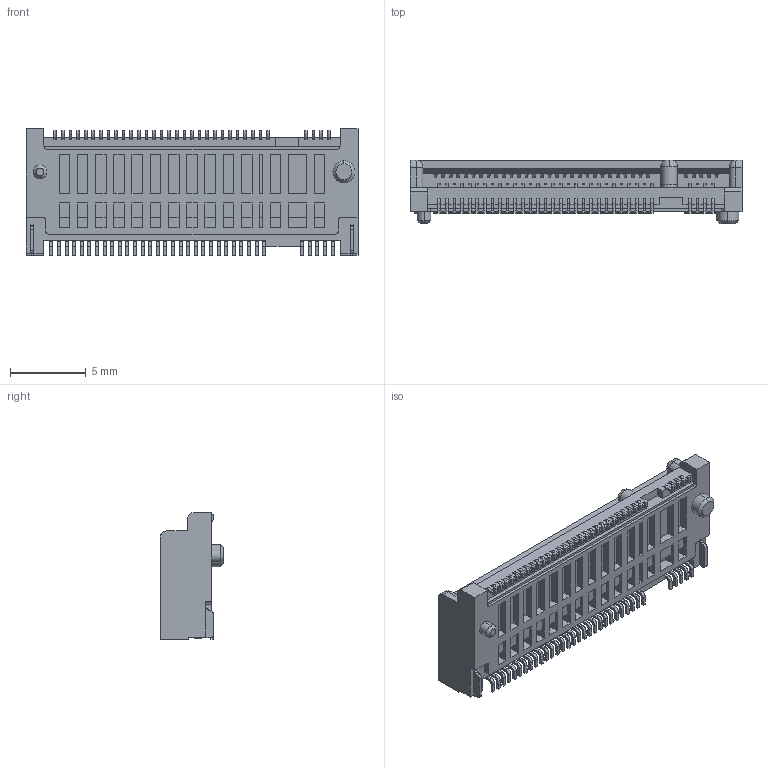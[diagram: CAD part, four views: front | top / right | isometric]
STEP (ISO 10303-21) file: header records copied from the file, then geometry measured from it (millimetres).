
FILE_DESCRIPTION (( 'STEP AP203' ), '1' );
FILE_NAME ('8402-C67G00M4T-G4-1120823.STEP', '2023-08-23T08:56:45', ( '' ), ( '' ), 'SwSTEP 2.0', 'SolidWorks 2019', '' );
FILE_SCHEMA (( 'CONFIG_CONTROL_DESIGN' ));
Length unit declared in the file: millimetre
Products named in the file (2): 8402-C67G00M4T-G4-1120823
Assembly tree (1 placements, depth 2):
  8402-C67G00M4T-G4-1120823
    8402-C67G00M4T-G4-1120823
Bounding box: 21.85 x 4.2 x 8.35 mm (x, y, z)
Volume: 389.6 mm3; surface area: 866.2 mm2
Topology: 2 solids, 2 shells, 2711 faces, 7704 edges, 4990 vertices
Faces by surface type: plane 1862, cylinder 705, bspline 140, cone 4
Entity records: 90034 total; most frequent: CARTESIAN_POINT 20313, ORIENTED_EDGE 15268, DIRECTION 13378, EDGE_CURVE 7634, LINE 5796, VECTOR 5796, VERTEX_POINT 4990, AXIS2_PLACEMENT_3D 3791
